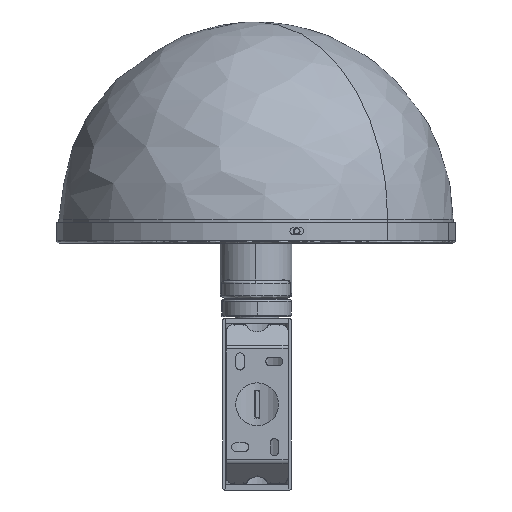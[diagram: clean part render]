
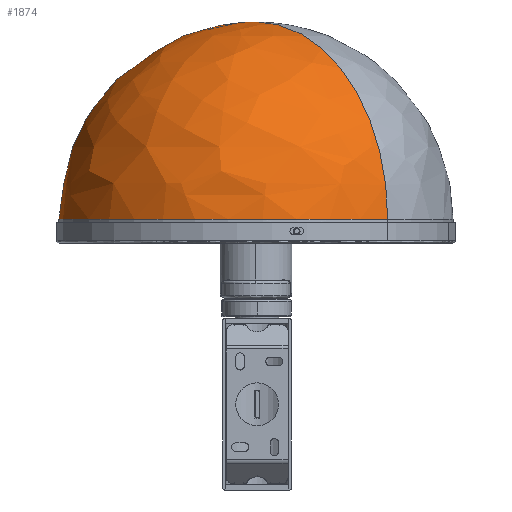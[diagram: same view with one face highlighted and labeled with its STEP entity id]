
A CAD part, front view. The second image highlights one B-rep face of the part: STEP entity #1874.
In plain terms, the highlighted free-form (B-spline) face has degree [2, 2] with [5, 9] control points.
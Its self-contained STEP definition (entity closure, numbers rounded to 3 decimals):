
#243=(
BOUNDED_SURFACE()
B_SPLINE_SURFACE(2,2,((#34510,#34511,#34512,#34513,#34514,#34515,#34516,
#34517,#34518),(#34519,#34520,#34521,#34522,#34523,#34524,#34525,#34526,
#34527),(#34528,#34529,#34530,#34531,#34532,#34533,#34534,#34535,#34536),
(#34537,#34538,#34539,#34540,#34541,#34542,#34543,#34544,#34545),(#34546,
#34547,#34548,#34549,#34550,#34551,#34552,#34553,#34554)),.UNSPECIFIED.,
 .F.,.F.,.F.)
B_SPLINE_SURFACE_WITH_KNOTS((3,2,3),(3,2,2,2,3),(0.,1.571,3.142),
(0.,0.884,1.767,2.651,3.534),
 .UNSPECIFIED.)
GEOMETRIC_REPRESENTATION_ITEM()
RATIONAL_B_SPLINE_SURFACE(((1.,0.904,1.,0.904,1.,
0.904,1.,0.904,1.),(0.707,0.639,
0.707,0.639,0.707,0.639,
0.707,0.639,0.707),(1.,0.904,
1.,0.904,1.,0.904,1.,0.904,1.),(0.707,
0.639,0.707,0.639,0.707,
0.639,0.707,0.639,0.707),
(1.,0.904,1.,0.904,1.,0.904,1.,0.904,
1.)))
REPRESENTATION_ITEM('')
SURFACE()
);
#1874=ADVANCED_FACE('',(#2895),#243,.T.);
#2895=FACE_OUTER_BOUND('',#4008,.T.);
#4008=EDGE_LOOP('',(#7417,#7418,#7419));
#7417=ORIENTED_EDGE('',*,*,#10774,.F.);
#7418=ORIENTED_EDGE('',*,*,#10775,.F.);
#7419=ORIENTED_EDGE('',*,*,#10773,.F.);
#10773=EDGE_CURVE('',#16109,#16111,#12274,.T.);
#10774=EDGE_CURVE('',#16110,#16109,#12275,.T.);
#10775=EDGE_CURVE('',#16111,#16110,#12276,.T.);
#12274=TRIMMED_CURVE($,#13199,(#34604),(#34605),.T.,.CARTESIAN.);
#12275=TRIMMED_CURVE($,#13200,(#34607),(#34608),.T.,.CARTESIAN.);
#12276=TRIMMED_CURVE($,#13201,(#34610),(#34611),.T.,.CARTESIAN.);
#13199=CIRCLE('',#18206,115.);
#13200=CIRCLE('',#18207,115.);
#13201=CIRCLE('',#18208,115.);
#16109=VERTEX_POINT('',#34600);
#16110=VERTEX_POINT('',#34601);
#16111=VERTEX_POINT('',#34602);
#18206=AXIS2_PLACEMENT_3D($,#34603,#20422,#20423);
#18207=AXIS2_PLACEMENT_3D($,#34606,#20424,#20425);
#18208=AXIS2_PLACEMENT_3D($,#34609,#20426,#20427);
#20422=DIRECTION('',(0.,0.,1.));
#20423=DIRECTION('',(-0.668,0.744,0.));
#20424=DIRECTION('',(-0.744,-0.668,0.));
#20425=DIRECTION('',(0.,0.,1.));
#20426=DIRECTION('',(-0.744,-0.668,0.));
#20427=DIRECTION('',(0.668,-0.744,0.));
#34510=CARTESIAN_POINT('',(-0.703,292.998,43.));
#34511=CARTESIAN_POINT('',(-0.703,292.998,43.));
#34512=CARTESIAN_POINT('',(-0.703,292.998,43.));
#34513=CARTESIAN_POINT('',(-0.703,292.998,43.));
#34514=CARTESIAN_POINT('',(-0.703,292.998,43.));
#34515=CARTESIAN_POINT('',(-0.703,292.998,43.));
#34516=CARTESIAN_POINT('',(-0.703,292.998,43.));
#34517=CARTESIAN_POINT('',(-0.703,292.998,43.));
#34518=CARTESIAN_POINT('',(-0.703,292.998,43.));
#34519=CARTESIAN_POINT('',(-77.506,378.592,43.));
#34520=CARTESIAN_POINT('',(-117.989,342.267,43.));
#34521=CARTESIAN_POINT('',(-115.591,287.929,43.));
#34522=CARTESIAN_POINT('',(-113.194,233.591,43.));
#34523=CARTESIAN_POINT('',(-69.669,200.972,43.));
#34524=CARTESIAN_POINT('',(-26.144,168.354,43.));
#34525=CARTESIAN_POINT('',(26.682,181.306,43.));
#34526=CARTESIAN_POINT('',(79.508,194.258,43.));
#34527=CARTESIAN_POINT('',(103.009,243.31,43.));
#34528=CARTESIAN_POINT('',(-77.506,378.592,158.));
#34529=CARTESIAN_POINT('',(-117.989,342.267,158.));
#34530=CARTESIAN_POINT('',(-115.591,287.929,158.));
#34531=CARTESIAN_POINT('',(-113.194,233.591,158.));
#34532=CARTESIAN_POINT('',(-69.669,200.972,158.));
#34533=CARTESIAN_POINT('',(-26.144,168.354,158.));
#34534=CARTESIAN_POINT('',(26.682,181.306,158.));
#34535=CARTESIAN_POINT('',(79.508,194.258,158.));
#34536=CARTESIAN_POINT('',(103.009,243.31,158.));
#34537=CARTESIAN_POINT('',(-77.506,378.592,273.));
#34538=CARTESIAN_POINT('',(-117.989,342.267,273.));
#34539=CARTESIAN_POINT('',(-115.591,287.929,273.));
#34540=CARTESIAN_POINT('',(-113.194,233.591,273.));
#34541=CARTESIAN_POINT('',(-69.669,200.972,273.));
#34542=CARTESIAN_POINT('',(-26.144,168.354,273.));
#34543=CARTESIAN_POINT('',(26.682,181.306,273.));
#34544=CARTESIAN_POINT('',(79.508,194.258,273.));
#34545=CARTESIAN_POINT('',(103.009,243.31,273.));
#34546=CARTESIAN_POINT('',(-0.703,292.998,273.));
#34547=CARTESIAN_POINT('',(-0.703,292.998,273.));
#34548=CARTESIAN_POINT('',(-0.703,292.998,273.));
#34549=CARTESIAN_POINT('',(-0.703,292.998,273.));
#34550=CARTESIAN_POINT('',(-0.703,292.998,273.));
#34551=CARTESIAN_POINT('',(-0.703,292.998,273.));
#34552=CARTESIAN_POINT('',(-0.703,292.998,273.));
#34553=CARTESIAN_POINT('',(-0.703,292.998,273.));
#34554=CARTESIAN_POINT('',(-0.703,292.998,273.));
#34600=CARTESIAN_POINT('',(-77.506,378.592,158.));
#34601=CARTESIAN_POINT('',(-0.703,292.998,273.));
#34602=CARTESIAN_POINT('',(76.099,207.404,158.));
#34603=CARTESIAN_POINT('',(-0.703,292.998,158.));
#34604=CARTESIAN_POINT('',(-77.506,378.592,158.));
#34605=CARTESIAN_POINT('',(76.099,207.404,158.));
#34606=CARTESIAN_POINT('',(-0.703,292.998,158.));
#34607=CARTESIAN_POINT('',(-0.703,292.998,273.));
#34608=CARTESIAN_POINT('',(-77.506,378.592,158.));
#34609=CARTESIAN_POINT('',(-0.703,292.998,158.));
#34610=CARTESIAN_POINT('',(76.099,207.404,158.));
#34611=CARTESIAN_POINT('',(-0.703,292.998,273.));
